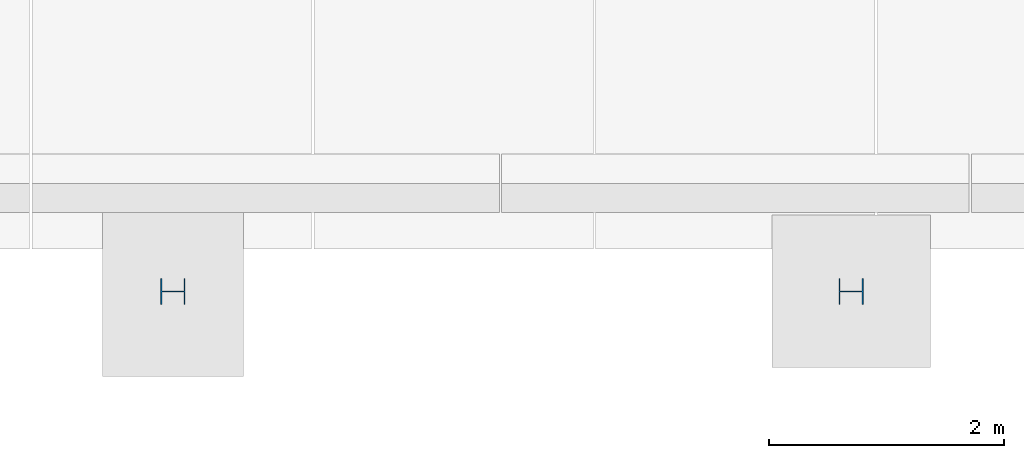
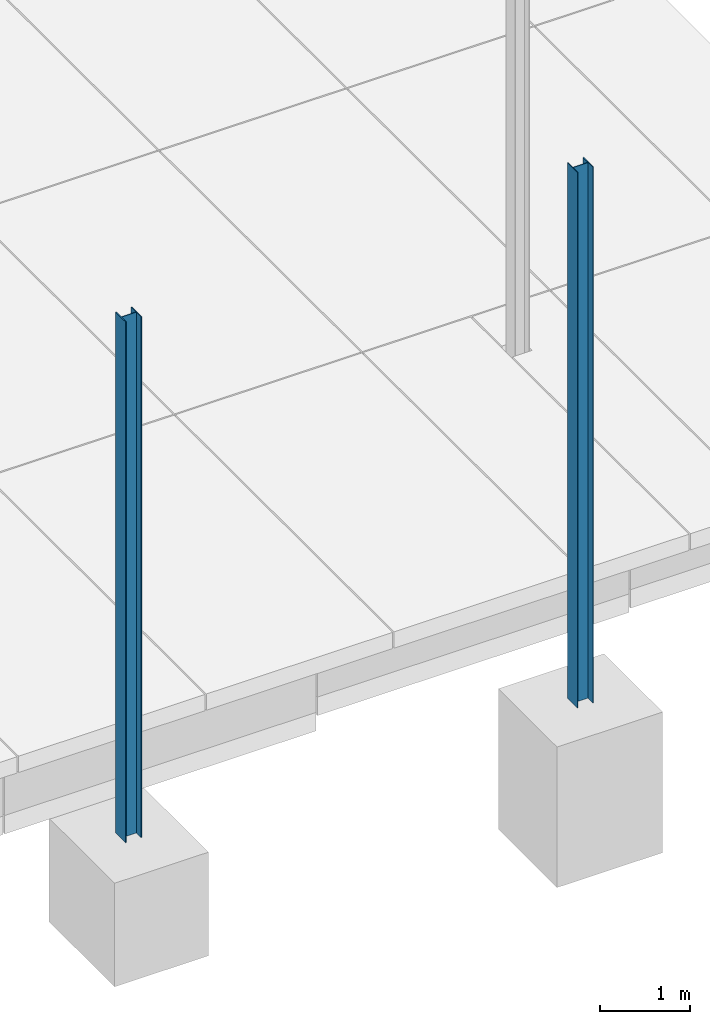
# One storey, part 22 of 59: 2 columns.
"""IFC2X3 building model written with IfcOpenShell, lengths in metres."""

from ifc_helpers import new_model, entity, si_unit, converted_unit, derived_unit, frame, origin, origin_with_axes, place, context, subcontext, project, spatial, polyline, outline, extrude, material, element, save


model = new_model("IFC2X3")

# Units and contexts
model_context = context("Model", 3, precision=1e-05, world=origin())
body_context = subcontext(model_context, "Body", "Model", "MODEL_VIEW")
ifc_project = project(units=[si_unit("LENGTHUNIT", "METRE"), si_unit("AREAUNIT", "SQUARE_METRE"), si_unit("VOLUMEUNIT", "CUBIC_METRE"), si_unit("MASSUNIT", "GRAM", prefix="KILO"), converted_unit("PLANEANGLEUNIT", "DEGREE", entity("IfcPlaneAngleMeasure", 0.0174532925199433), si_unit("PLANEANGLEUNIT", "RADIAN"), dimensions=[0, 0, 0, 0, 0, 0, 0]), derived_unit("THERMALTRANSMITTANCEUNIT", [(si_unit("POWERUNIT", "WATT"), 1), (si_unit("THERMODYNAMICTEMPERATUREUNIT", "KELVIN"), -1), (si_unit("LENGTHUNIT", "METRE"), -2)]), derived_unit("VOLUMETRICFLOWRATEUNIT", [(si_unit("LENGTHUNIT", "METRE"), 3), (converted_unit("TIMEUNIT", "hour", entity("IfcTimeMeasure", 3600.0), si_unit("TIMEUNIT", "SECOND"), dimensions=[0, 0, 1, 0, 0, 0, 0]), -1), (si_unit("LENGTHUNIT", "METRE"), -1)])], contexts=[model_context])

# Site, building, storey
site_placement = place(None, origin())
site = spatial("IfcSite", under=ifc_project, at=site_placement, Name="TWP_Speiseverteilzentrum SBW VZ II", CompositionType="ELEMENT")
building_placement = place(site_placement, origin())
building = spatial("IfcBuilding", under=site, at=building_placement, Name="Speiseverteilzentrum SBW VZ II", CompositionType="ELEMENT")
storey_placement = place(building_placement, frame((0.0, 0.0, 1.7307)))
storey = spatial("IfcBuildingStorey", under=building, at=storey_placement, Name="EG_Produktion_FFB", CompositionType="ELEMENT", Elevation=1.7307)

# Columns
ifc_material_1 = material(Name="S235")
column_1_placement = place(storey_placement, frame((58.6950000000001, 10.5801485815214, -1.52)))
element("IfcColumn", 1, at=column_1_placement, inside=storey, material=ifc_material_1, Name="Stahlstütze", context=body_context, shape_type="SweptSolid", body=[
    extrude(outline(polyline([(0.21, 0.0), (0.21, 0.22), (0.199, 0.22), (0.199, 0.1135), (0.011, 0.1135), (0.011, 0.22), (0.0, 0.22), (0.0, 0.0), (0.011, 0.0), (0.011, 0.1065), (0.199, 0.1065), (0.199, 0.0), (0.21, 0.0)])), origin_with_axes(), (0.0, 0.0, 1.0), 7.0393),
])
ifc_material_2 = material(Name="S235")
column_2_placement = place(storey_placement, frame((64.4700000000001, 10.5801485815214, -1.72)))
element("IfcColumn", 2, at=column_2_placement, inside=storey, material=ifc_material_2, Name="Stahlstütze", context=body_context, shape_type="SweptSolid", body=[
    extrude(outline(polyline([(0.21, 0.0), (0.21, 0.22), (0.199, 0.22), (0.199, 0.1135), (0.011, 0.1135), (0.011, 0.22), (0.0, 0.22), (0.0, 0.0), (0.011, 0.0), (0.011, 0.1065), (0.199, 0.1065), (0.199, 0.0), (0.21, 0.0)])), origin_with_axes(), (0.0, 0.0, 1.0), 7.2393),
])

save(model, "model.ifc")
